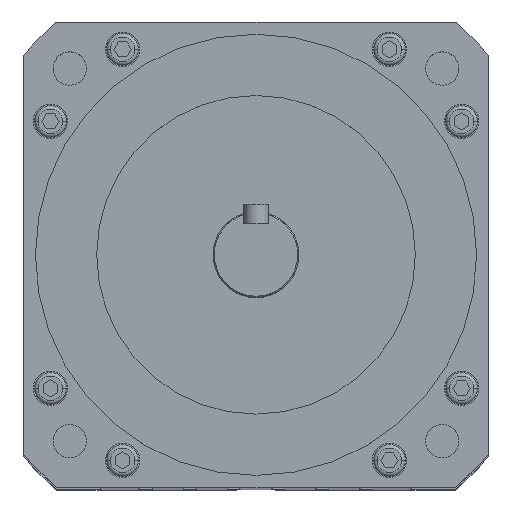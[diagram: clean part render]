
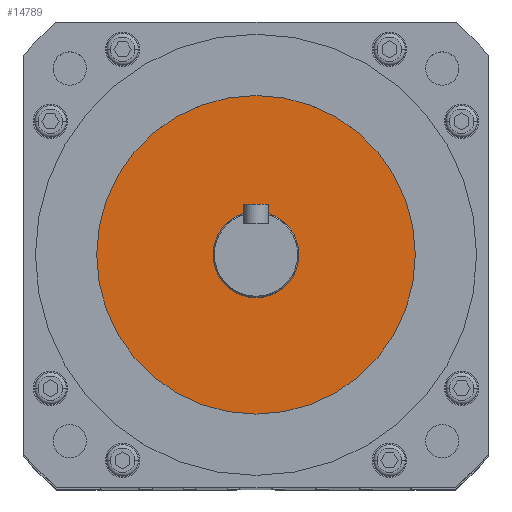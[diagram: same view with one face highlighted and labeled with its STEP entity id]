
A CAD part, top view. The second image highlights one B-rep face of the part: STEP entity #14789.
In plain terms, the highlighted planar face has unit normal (0, 0, 1).
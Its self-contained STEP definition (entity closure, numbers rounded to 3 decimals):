
#609 = DIRECTION ( 'NONE',  ( 0., 0., 1. ) ) ;
#890 = DIRECTION ( 'NONE',  ( 0., 0., 1. ) ) ;
#928 = DIRECTION ( 'NONE',  ( 0., 0., 1. ) ) ;
#1494 = EDGE_CURVE ( 'NONE', #9331, #3359, #4798, .T. ) ;
#1907 = PLANE ( 'NONE',  #5876 ) ;
#1911 = VERTEX_POINT ( 'NONE', #8647 ) ;
#2463 = EDGE_CURVE ( 'NONE', #1911, #2863, #7701, .T. ) ;
#2863 = VERTEX_POINT ( 'NONE', #8838 ) ;
#3359 = VERTEX_POINT ( 'NONE', #9252 ) ;
#4077 = CARTESIAN_POINT ( 'NONE',  ( 65., 0., 498. ) ) ;
#4327 = ORIENTED_EDGE ( 'NONE', *, *, #8788, .F. ) ;
#4503 = ORIENTED_EDGE ( 'NONE', *, *, #11810, .T. ) ;
#4744 = DIRECTION ( 'NONE',  ( 1., 0., 0. ) ) ;
#4798 = CIRCLE ( 'NONE', #13290, 65. ) ;
#5383 = CARTESIAN_POINT ( 'NONE',  ( 0., 0., 498. ) ) ;
#5475 = AXIS2_PLACEMENT_3D ( 'NONE', #12867, #5883, #4744 ) ;
#5876 = AXIS2_PLACEMENT_3D ( 'NONE', #6561, #609, #13532 ) ;
#5883 = DIRECTION ( 'NONE',  ( 0., 0., 1. ) ) ;
#6561 = CARTESIAN_POINT ( 'NONE',  ( 0., 0., 498. ) ) ;
#6908 = ORIENTED_EDGE ( 'NONE', *, *, #1494, .T. ) ;
#7310 = CARTESIAN_POINT ( 'NONE',  ( 0., 0., 498. ) ) ;
#7472 = DIRECTION ( 'NONE',  ( 0., 0., 1. ) ) ;
#7701 = CIRCLE ( 'NONE', #13501, 17.5 ) ;
#7707 = FACE_BOUND ( 'NONE', #10901, .T. ) ;
#8647 = CARTESIAN_POINT ( 'NONE',  ( 17.5, 0., 498. ) ) ;
#8761 = FACE_OUTER_BOUND ( 'NONE', #13547, .T. ) ;
#8788 = EDGE_CURVE ( 'NONE', #2863, #1911, #12686, .T. ) ;
#8838 = CARTESIAN_POINT ( 'NONE',  ( -17.5, 0., 498. ) ) ;
#9252 = CARTESIAN_POINT ( 'NONE',  ( -65., 0., 498. ) ) ;
#9331 = VERTEX_POINT ( 'NONE', #4077 ) ;
#9745 = DIRECTION ( 'NONE',  ( 1., 0., 0. ) ) ;
#9868 = CIRCLE ( 'NONE', #5475, 65. ) ;
#9891 = DIRECTION ( 'NONE',  ( 1., 0., 0. ) ) ;
#10750 = AXIS2_PLACEMENT_3D ( 'NONE', #7310, #7472, #9745 ) ;
#10901 = EDGE_LOOP ( 'NONE', ( #4327, #14839 ) ) ;
#11810 = EDGE_CURVE ( 'NONE', #3359, #9331, #9868, .T. ) ;
#12686 = CIRCLE ( 'NONE', #10750, 17.5 ) ;
#12867 = CARTESIAN_POINT ( 'NONE',  ( 0., 0., 498. ) ) ;
#13290 = AXIS2_PLACEMENT_3D ( 'NONE', #5383, #890, #9891 ) ;
#13501 = AXIS2_PLACEMENT_3D ( 'NONE', #14995, #928, #13774 ) ;
#13532 = DIRECTION ( 'NONE',  ( 1., 0., 0. ) ) ;
#13547 = EDGE_LOOP ( 'NONE', ( #6908, #4503 ) ) ;
#13774 = DIRECTION ( 'NONE',  ( 1., 0., 0. ) ) ;
#14789 = ADVANCED_FACE ( 'NONE', ( #7707, #8761 ), #1907, .T. ) ;
#14839 = ORIENTED_EDGE ( 'NONE', *, *, #2463, .F. ) ;
#14995 = CARTESIAN_POINT ( 'NONE',  ( 0., 0., 498. ) ) ;
